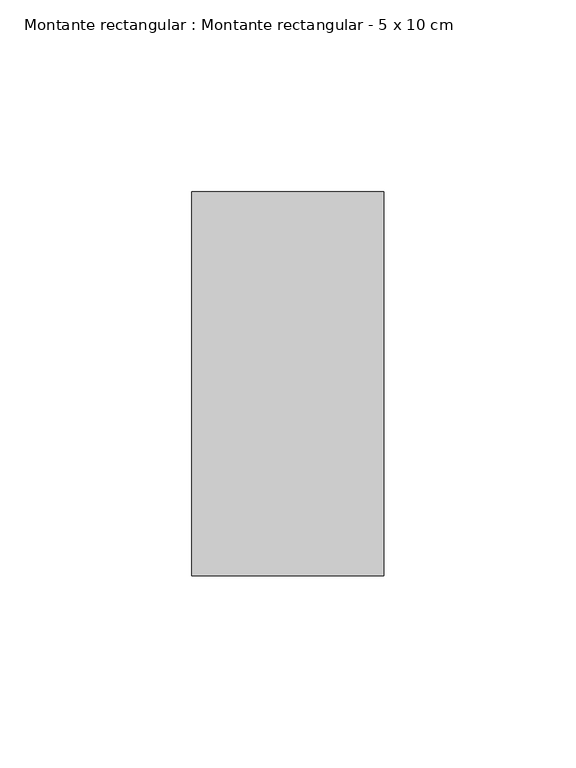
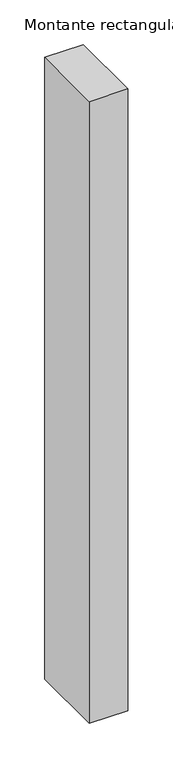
"""IFC4 building model written with IfcOpenShell, lengths in millimetres: member geometry, Montante rectangular : Montante rectangular - 5 x 10 cm."""

from ifc_helpers import new_model, si_unit, frame, origin, place, context, project, spatial, polyline, outline, extrude, source, transform, mapped, element, save


def montante_rectangular_montante_rectangular_5_x_10_cm_ff9af2e4(model_context):
    return source(origin(), model_context, "Body", "SweptSolid", [
        extrude(outline(polyline([(-50.0, 50.0), (0.0, 50.0), (0.0, -50.0), (-50.0, -50.0), (-50.0, 50.0)])), frame((0.0, 0.0, -850.0), z_axis=(0.0, 0.0, 1.0), x_axis=(1.0, 0.0, 0.0)), (0.0, 0.0, 1.0), 850.0),
    ])


if __name__ == "__main__":
    model = new_model("IFC4")
    model_context = context("Model", 3, world=origin())
    ifc_project = project(units=[si_unit("LENGTHUNIT", "METRE", prefix="MILLI")], contexts=[model_context])
    site = spatial("IfcSite", under=ifc_project)
    building = spatial("IfcBuilding", under=site)
    placement = place(None, origin())
    montante_rectangular_montante_rectangular_5_x_10_cm_shape = montante_rectangular_montante_rectangular_5_x_10_cm_ff9af2e4(model_context)
    element("IfcMember", 1, ObjectType="Montante rectangular : Montante rectangular - 5 x 10 cm", at=placement, inside=building, context=model_context, shape_type="MappedRepresentation", body=[
        mapped(montante_rectangular_montante_rectangular_5_x_10_cm_shape, transform((0.0, 0.0, 0.0), x_axis=(1.0, 0.0, 0.0), y_axis=(0.0, 1.0, 0.0), z_axis=(0.0, 0.0, 1.0))),
    ])
    save(model, "model.ifc")
